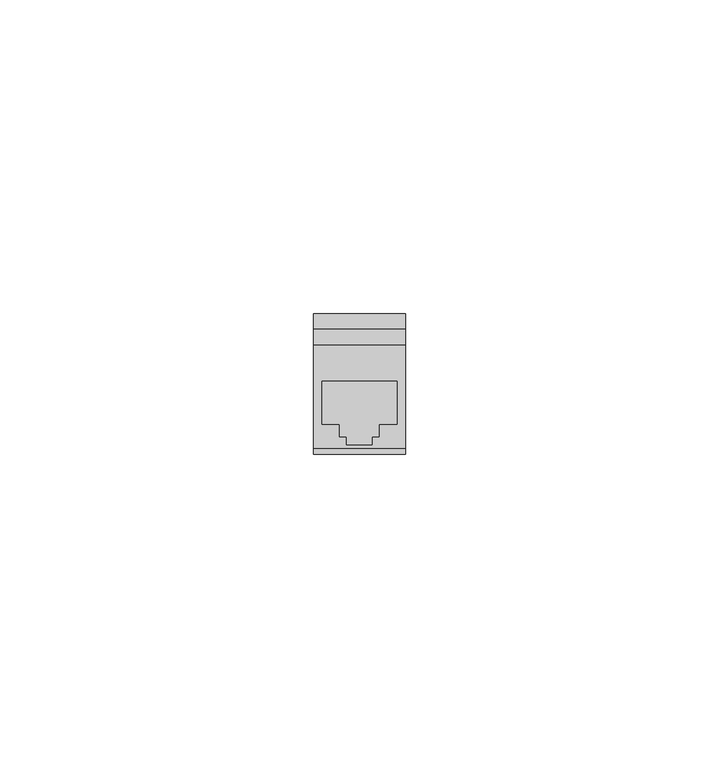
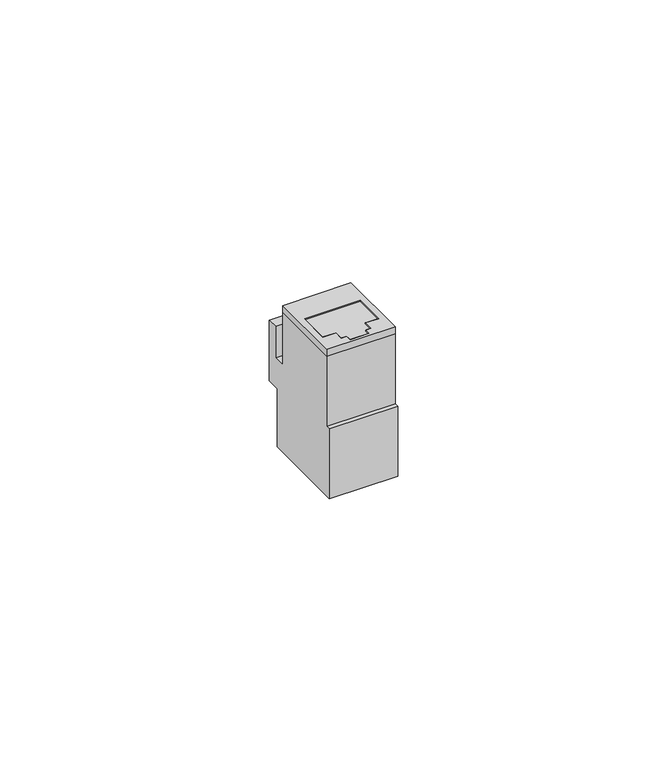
"""IFC4 building model written with IfcOpenShell, lengths in millimetres: electric appliance geometry, Data_Device-Network-Leviton-QuickPort-Connector-Copper-Atlas-X1 : CAT 6 Shielded, with Shutter."""

from ifc_helpers import new_model, si_unit, frame, origin, place, context, project, spatial, polyline, outline, extrude, faceted_brep, source, transform, mapped, element, save


def electric_appliance_5a4a56fd(model_context):
    return source(origin(), model_context, "Body", "SolidModel", [
        extrude(outline(polyline([(7.3025, 16.383), (7.3025, 0.0), (-7.3025, 0.0), (-7.3025, 16.383), (7.3025, 16.383)]), holes=[polyline([(5.9563, 10.6426), (-5.9563, 10.6426), (-5.9563, 3.81), (-3.1496, 3.81), (-3.1496, 1.8288), (-2.032, 1.8288), (-2.032, 0.5588), (2.032, 0.5588), (2.032, 1.8288), (3.1496, 1.8288), (3.1496, 3.81), (5.9563, 3.81), (5.9563, 10.6426)])]), frame((0.0, 0.0, -1.524), z_axis=(0.0, 0.0, 1.0), x_axis=(1.0, 0.0, 0.0)), (0.0, 0.0, 1.0), 1.5494),
        extrude(outline(polyline([(-5.9563, 3.81), (-5.9563, 10.6426), (5.9563, 10.6426), (5.9563, 3.81), (3.1496, 3.81), (3.1496, 1.8288), (2.032, 1.8288), (2.032, 0.5588), (-2.032, 0.5588), (-2.032, 1.8288), (-3.1496, 1.8288), (-3.1496, 3.81), (-5.9563, 3.81)])), frame((0.0, 0.0, -0.762), z_axis=(0.0, 0.0, 1.0), x_axis=(1.0, 0.0, 0.0)), (0.0, 0.0, 1.0), 0.8382),
        faceted_brep([(7.3025, 0.0, -1.524), (7.3025, 0.0, -17.399), (7.3025, -0.9256355, -17.399), (7.3025, -0.9256355, -33.274), (7.3025, 18.422639, -33.274), (7.3025, 18.422639, -20.066), (7.3025, 21.406854, -20.066), (7.3025, 21.406854, -6.3246), (7.3025, 19.0409297, -6.3246), (7.3025, 19.0409297, -13.4366), (7.3025, 16.383, -13.4366), (7.3025, 16.383, -1.524), (-7.3025, 0.0, -1.524), (-7.3025, 16.383, -1.524), (-7.3025, 16.383, -13.4366), (-7.3025, 19.0409297, -13.4366), (-7.3025, 19.0409297, -6.3246), (-7.3025, 21.406854, -6.3246), (-7.3025, 21.406854, -20.066), (-7.3025, 18.422639, -20.066), (-7.3025, 18.422639, -33.274), (-7.3025, -0.9256355, -33.274), (-7.3025, -0.9256355, -17.399), (-7.3025, 0.0, -17.399), (-5.9563, 10.6426, -1.524), (5.9563, 10.6426, -1.524), (5.9563, 3.81, -1.524), (3.1496, 3.81, -1.524), (3.1496, 1.8288, -1.524), (2.032, 1.8288, -1.524), (2.032, 0.5588, -1.524), (-2.032, 0.5588, -1.524), (-2.032, 1.8288, -1.524), (-3.1496, 1.8288, -1.524), (-3.1496, 3.81, -1.524), (-5.9563, 3.81, -1.524), (5.9563, 10.6426, -9.525), (-5.9563, 10.6426, -9.525), (-5.9563, 3.81, -9.525), (-3.1496, 3.81, -9.525), (-3.1496, 1.8288, -9.525), (-2.032, 1.8288, -9.525), (-2.032, 0.5588, -9.525), (2.032, 0.5588, -9.525), (2.032, 1.8288, -9.525), (3.1496, 1.8288, -9.525), (3.1496, 3.81, -9.525), (5.9563, 3.81, -9.525)], [[[0, 1, 2, 3, 4, 5, 6, 7, 8, 9, 10, 11]], [[12, 13, 14, 15, 16, 17, 18, 19, 20, 21, 22, 23]], [[1, 0, 12, 23]], [[2, 1, 23, 22]], [[3, 2, 22, 21]], [[4, 3, 21, 20]], [[5, 4, 20, 19]], [[6, 5, 19, 18]], [[7, 6, 18, 17]], [[8, 7, 17, 16]], [[9, 8, 16, 15]], [[10, 9, 15, 14]], [[11, 10, 14, 13]], [[0, 11, 13, 12], [24, 25, 26, 27, 28, 29, 30, 31, 32, 33, 34, 35]], [[36, 37, 38, 39, 40, 41, 42, 43, 44, 45, 46, 47]], [[37, 36, 25, 24]], [[38, 37, 24, 35]], [[39, 38, 35, 34]], [[40, 39, 34, 33]], [[41, 40, 33, 32]], [[42, 41, 32, 31]], [[43, 42, 31, 30]], [[44, 43, 30, 29]], [[45, 44, 29, 28]], [[46, 45, 28, 27]], [[47, 46, 27, 26]], [[36, 47, 26, 25]]]),
    ])


if __name__ == "__main__":
    model = new_model("IFC4")
    model_context = context("Model", 3, world=origin())
    ifc_project = project(units=[si_unit("LENGTHUNIT", "METRE", prefix="MILLI")], contexts=[model_context])
    site = spatial("IfcSite", under=ifc_project)
    building = spatial("IfcBuilding", under=site)
    placement = place(None, origin())
    electric_appliance_shape = electric_appliance_5a4a56fd(model_context)
    element("IfcElectricAppliance", 1, ObjectType="Data_Device-Network-Leviton-QuickPort-Connector-Copper-Atlas-X1 : CAT 6 Shielded, with Shutter", at=placement, inside=building, context=model_context, shape_type="MappedRepresentation", body=[
        mapped(electric_appliance_shape, transform((0.0, 0.0, 0.0), x_axis=(1.0, 0.0, 0.0), y_axis=(0.0, 1.0, 0.0), z_axis=(0.0, 0.0, 1.0))),
    ])
    save(model, "model.ifc")
